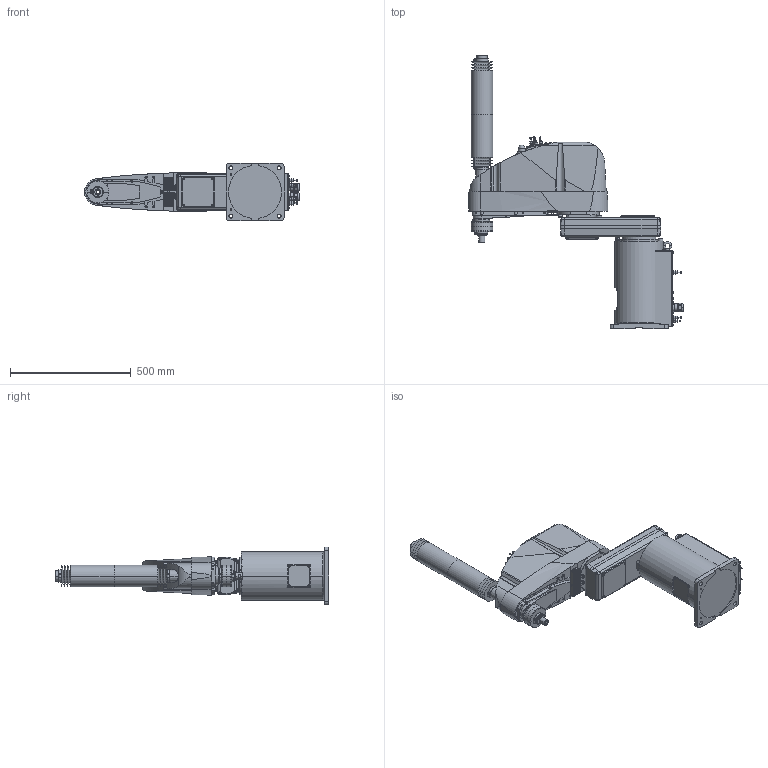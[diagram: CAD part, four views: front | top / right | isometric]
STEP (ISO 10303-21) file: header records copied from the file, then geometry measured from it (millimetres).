
FILE_DESCRIPTION( ( '' ), '1' );
FILE_NAME( '//expscmdclustefs.cadenas.external/client_exchange/iodir/jobs/output/wkb51511577_no0/STEP/G10_654D_2_03.stp', '2012-11-22T15:16:14', ( '' ), ( '' ), ' ', ' ', ' ' );
FILE_SCHEMA( ( 'CONFIG_CONTROL_DESIGN' ) );
Length unit declared in the file: millimetre
Products named in the file (8): 1; 2; 3; 4; 5; 6; 7; 8
Bounding box: 889.5 x 1133 x 240 mm (x, y, z)
Volume: 40915539.3 mm3; surface area: 1704314 mm2
Topology: 8 solids, 9 shells, 2212 faces, 5381 edges, 3458 vertices
Faces by surface type: plane 1161, cylinder 721, cone 286, torus 43, sphere 1
Entity records: 67196 total; most frequent: CARTESIAN_POINT 13584, DIRECTION 11467, ORIENTED_EDGE 10738, EDGE_CURVE 5369, AXIS2_PLACEMENT_3D 4056, VERTEX_POINT 3458, LINE 3355, VECTOR 3355
